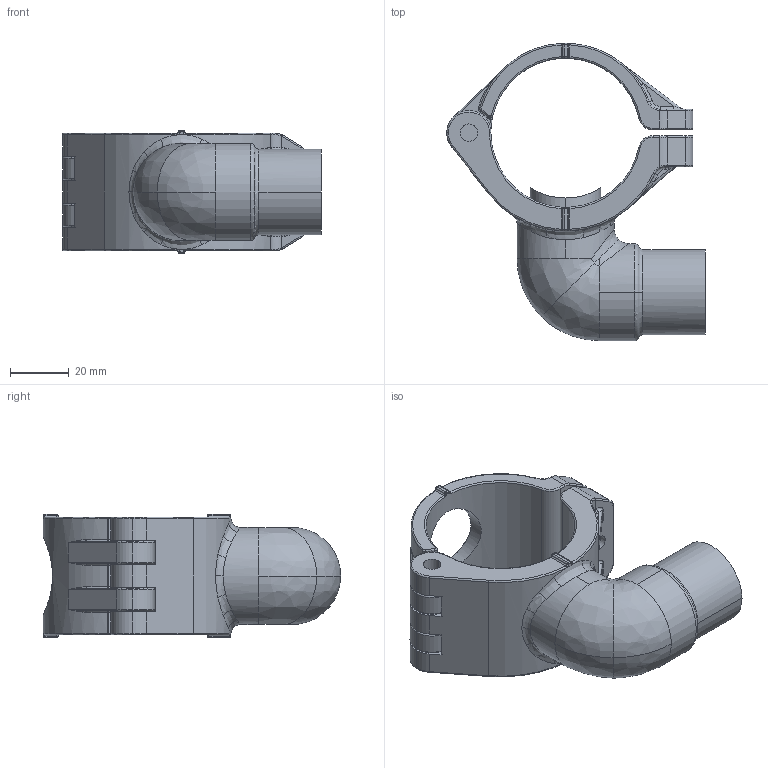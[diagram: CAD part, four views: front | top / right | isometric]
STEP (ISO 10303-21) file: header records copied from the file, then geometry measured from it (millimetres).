
FILE_DESCRIPTION(/* description */ (''),/* implementation_level */ '2;1');
FILE_NAME(/* name */ '5011_stp.stp',/* time_stamp */ '2025-06-20T11:23:29+08:00',/* author */ (''),/* organization */ (''),/* preprocessor_version */ 'ST-DEVELOPER v14',/* originating_system */ 'SIEMENS PLM Software NX 8.0',/* authorisation */ '');
FILE_SCHEMA (('AP203_CONFIGURATION_CONTROLLED_3D_DESIGN_OF_MECHANICAL_PARTS_AND_ASSEMBLIES_MIM_LF { 1 0 10303 403 2 1 2}'));
Length unit declared in the file: millimetre
Products named in the file (1): Admi144825784x9n
Bounding box: 87.9 x 101.1 x 42 mm (x, y, z)
Volume: 88289 mm3; surface area: 32244.4 mm2
Topology: 2 solids, 8 shells, 413 faces, 1225 edges, 776 vertices
Faces by surface type: cylinder 134, torus 108, bspline 80, plane 48, sphere 32, cone 11
Entity records: 16035 total; most frequent: CARTESIAN_POINT 5826, ORIENTED_EDGE 2338, DIRECTION 1976, EDGE_CURVE 1169, AXIS2_PLACEMENT_3D 878, VERTEX_POINT 776, CIRCLE 540, EDGE_LOOP 433
